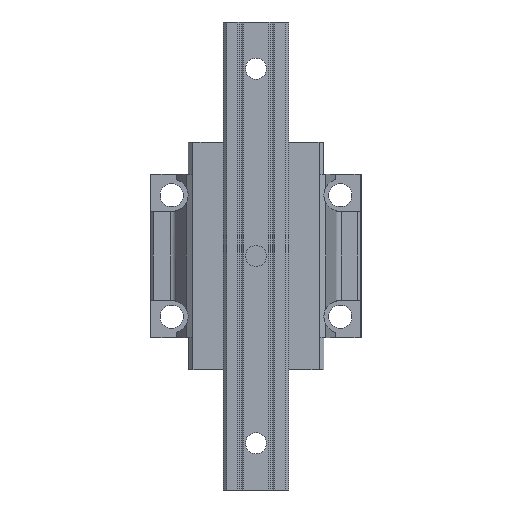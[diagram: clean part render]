
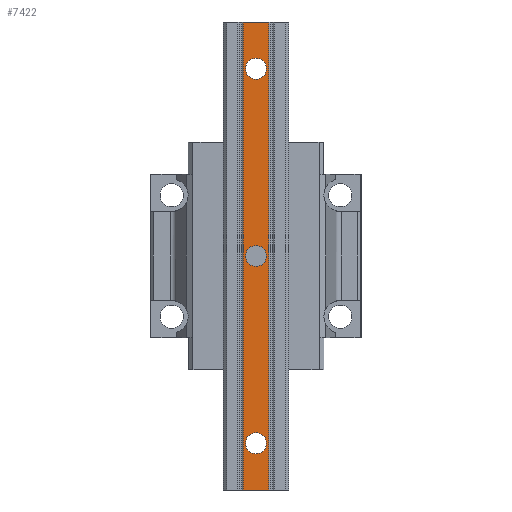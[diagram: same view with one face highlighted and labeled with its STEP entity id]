
A CAD part, front view. The second image highlights one B-rep face of the part: STEP entity #7422.
In plain terms, the highlighted planar face has unit normal (0, -1, 0).
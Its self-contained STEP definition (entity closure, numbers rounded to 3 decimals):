
#6212=DIRECTION('',(-1.,0.,0.));
#6213=VECTOR('',#6212,11.1);
#6214=CARTESIAN_POINT('',(5.55,-26.,-100.));
#6215=LINE('',#6214,#6213);
#6216=DIRECTION('',(0.,0.,-1.));
#6217=VECTOR('',#6216,200.);
#6218=CARTESIAN_POINT('',(5.55,-26.,100.));
#6219=LINE('',#6218,#6217);
#6220=CARTESIAN_POINT('',(0.,-26.,0.));
#6221=DIRECTION('',(0.,-1.,0.));
#6222=DIRECTION('',(1.,0.,0.));
#6223=AXIS2_PLACEMENT_3D('',#6220,#6221,#6222);
#6225=CARTESIAN_POINT('',(0.,-26.,0.));
#6226=DIRECTION('',(0.,-1.,0.));
#6227=DIRECTION('',(-1.,0.,0.));
#6228=AXIS2_PLACEMENT_3D('',#6225,#6226,#6227);
#6230=CARTESIAN_POINT('',(0.,-26.,80.));
#6231=DIRECTION('',(0.,-1.,0.));
#6232=DIRECTION('',(1.,0.,0.));
#6233=AXIS2_PLACEMENT_3D('',#6230,#6231,#6232);
#6235=CARTESIAN_POINT('',(0.,-26.,80.));
#6236=DIRECTION('',(0.,-1.,0.));
#6237=DIRECTION('',(-1.,0.,0.));
#6238=AXIS2_PLACEMENT_3D('',#6235,#6236,#6237);
#6240=CARTESIAN_POINT('',(0.,-26.,-80.));
#6241=DIRECTION('',(0.,-1.,0.));
#6242=DIRECTION('',(1.,0.,0.));
#6243=AXIS2_PLACEMENT_3D('',#6240,#6241,#6242);
#6245=CARTESIAN_POINT('',(0.,-26.,-80.));
#6246=DIRECTION('',(0.,-1.,0.));
#6247=DIRECTION('',(-1.,0.,0.));
#6248=AXIS2_PLACEMENT_3D('',#6245,#6246,#6247);
#6250=DIRECTION('',(0.,0.,-1.));
#6251=VECTOR('',#6250,200.);
#6252=CARTESIAN_POINT('',(-5.55,-26.,100.));
#6253=LINE('',#6252,#6251);
#6512=DIRECTION('',(-1.,0.,0.));
#6513=VECTOR('',#6512,11.1);
#6514=CARTESIAN_POINT('',(5.55,-26.,100.));
#6515=LINE('',#6514,#6513);
#6814=CARTESIAN_POINT('',(-5.55,-26.,-100.));
#6815=VERTEX_POINT('',#6814);
#6816=CARTESIAN_POINT('',(5.55,-26.,-100.));
#6817=VERTEX_POINT('',#6816);
#6894=CARTESIAN_POINT('',(5.55,-26.,100.));
#6895=VERTEX_POINT('',#6894);
#6896=CARTESIAN_POINT('',(-5.55,-26.,100.));
#6897=VERTEX_POINT('',#6896);
#6898=CARTESIAN_POINT('',(4.5,-26.,0.));
#6899=CARTESIAN_POINT('',(-4.5,-26.,0.));
#6900=VERTEX_POINT('',#6898);
#6901=VERTEX_POINT('',#6899);
#6902=CARTESIAN_POINT('',(4.5,-26.,80.));
#6903=CARTESIAN_POINT('',(-4.5,-26.,80.));
#6904=VERTEX_POINT('',#6902);
#6905=VERTEX_POINT('',#6903);
#6906=CARTESIAN_POINT('',(4.5,-26.,-80.));
#6907=CARTESIAN_POINT('',(-4.5,-26.,-80.));
#6908=VERTEX_POINT('',#6906);
#6909=VERTEX_POINT('',#6907);
#7391=CARTESIAN_POINT('',(-5.55,-26.,-100.));
#7392=DIRECTION('',(0.,-1.,0.));
#7393=DIRECTION('',(1.,0.,0.));
#7394=AXIS2_PLACEMENT_3D('',#7391,#7392,#7393);
#7395=PLANE('',#7394);
#7396=ORIENTED_EDGE('',*,*,#7067,.T.);
#7398=ORIENTED_EDGE('',*,*,#7397,.F.);
#7400=ORIENTED_EDGE('',*,*,#7399,.F.);
#7401=ORIENTED_EDGE('',*,*,#7383,.T.);
#7402=EDGE_LOOP('',(#7396,#7398,#7400,#7401));
#7403=FACE_OUTER_BOUND('',#7402,.F.);
#7405=ORIENTED_EDGE('',*,*,#7404,.T.);
#7407=ORIENTED_EDGE('',*,*,#7406,.T.);
#7408=EDGE_LOOP('',(#7405,#7407));
#7409=FACE_BOUND('',#7408,.F.);
#7411=ORIENTED_EDGE('',*,*,#7410,.T.);
#7413=ORIENTED_EDGE('',*,*,#7412,.T.);
#7414=EDGE_LOOP('',(#7411,#7413));
#7415=FACE_BOUND('',#7414,.F.);
#7417=ORIENTED_EDGE('',*,*,#7416,.T.);
#7419=ORIENTED_EDGE('',*,*,#7418,.T.);
#7420=EDGE_LOOP('',(#7417,#7419));
#7421=FACE_BOUND('',#7420,.F.);
#7422=ADVANCED_FACE('',(#7403,#7409,#7415,#7421),#7395,.T.);
#6224=CIRCLE('',#6223,4.5);
#6229=CIRCLE('',#6228,4.5);
#6234=CIRCLE('',#6233,4.5);
#6239=CIRCLE('',#6238,4.5);
#6244=CIRCLE('',#6243,4.5);
#6249=CIRCLE('',#6248,4.5);
#7067=EDGE_CURVE('',#6817,#6815,#6215,.T.);
#7383=EDGE_CURVE('',#6895,#6817,#6219,.T.);
#7397=EDGE_CURVE('',#6897,#6815,#6253,.T.);
#7399=EDGE_CURVE('',#6895,#6897,#6515,.T.);
#7404=EDGE_CURVE('',#6900,#6901,#6224,.T.);
#7406=EDGE_CURVE('',#6901,#6900,#6229,.T.);
#7410=EDGE_CURVE('',#6904,#6905,#6234,.T.);
#7412=EDGE_CURVE('',#6905,#6904,#6239,.T.);
#7416=EDGE_CURVE('',#6908,#6909,#6244,.T.);
#7418=EDGE_CURVE('',#6909,#6908,#6249,.T.);
